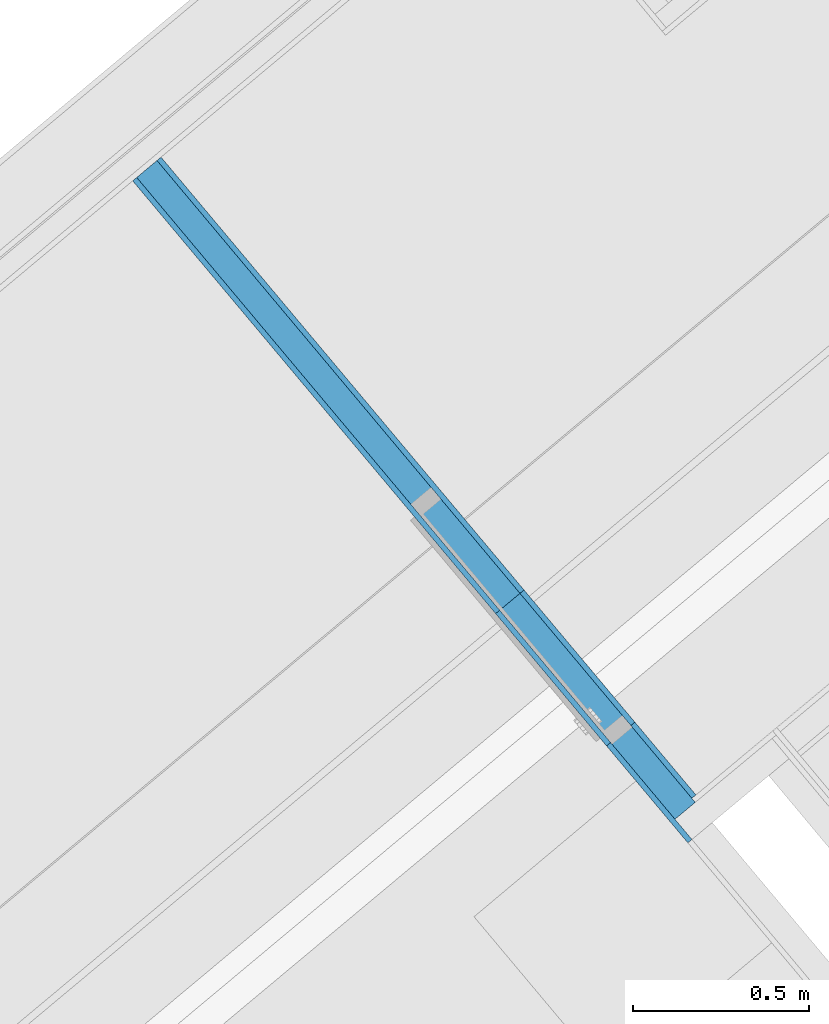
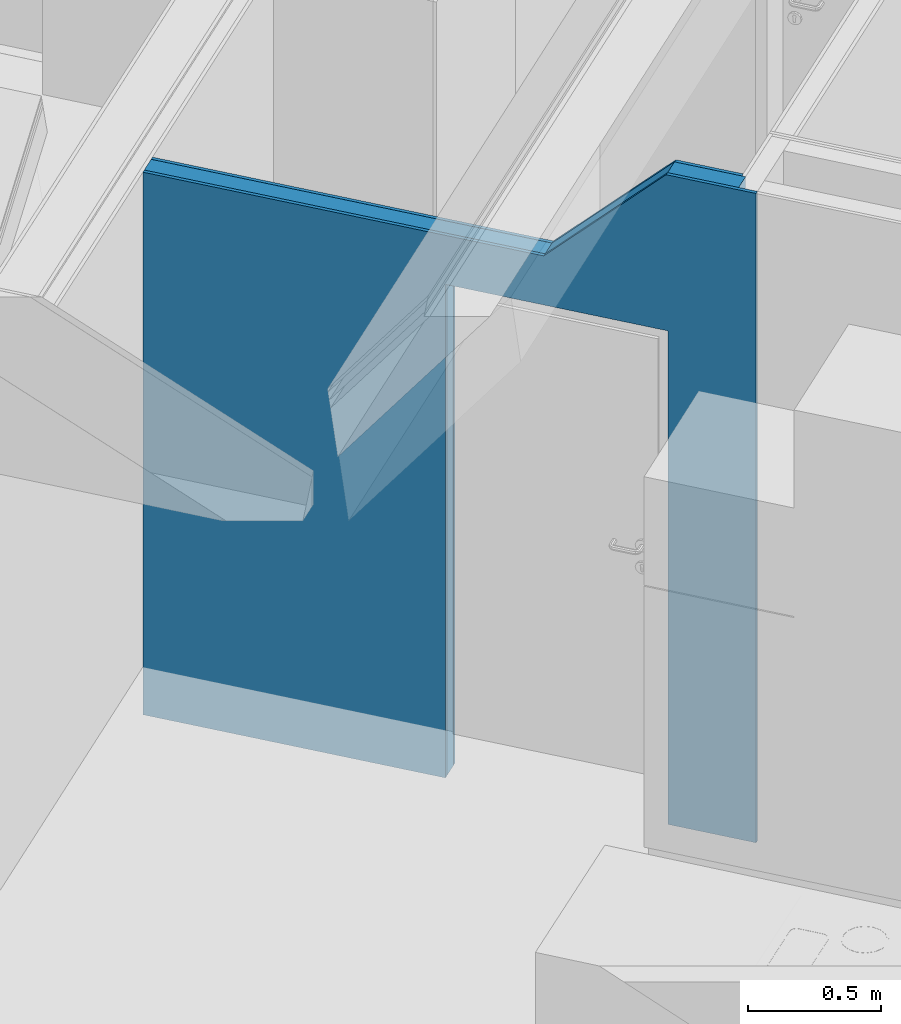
# One storey, part 8 of 47: 3 building element parts, 1 opening, 1 element without a shape of its own.
"""IFC4 building model written with IfcOpenShell, lengths in metres."""

from ifc_helpers import new_model, entity, si_unit, converted_unit, derived_unit, direction, frame, origin_with_axes, place, context, subcontext, project, spatial, polygons, material, type_object, element, aggregate, save


model = new_model("IFC4")

# Units and contexts
model_context = context("Model", 3, precision=1e-05, world=origin_with_axes(), true_north=direction((0.0, 1.0)))
body_context = subcontext(model_context, "Body", "Model", "MODEL_VIEW")
ifc_project = project(units=[si_unit("LENGTHUNIT", "METRE"), si_unit("AREAUNIT", "SQUARE_METRE"), si_unit("VOLUMEUNIT", "CUBIC_METRE"), converted_unit("PLANEANGLEUNIT", "DEGREE", entity("IfcPlaneAngleMeasure", 0.0174532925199), si_unit("PLANEANGLEUNIT", "RADIAN"), dimensions=[0, 0, 0, 0, 0, 0, 0]), converted_unit("TIMEUNIT", "Year", entity("IfcTimeMeasure", 31556926.0), si_unit("TIMEUNIT", "SECOND"), dimensions=[0, 0, 1, 0, 0, 0, 0]), si_unit("MASSUNIT", "GRAM", prefix="KILO"), si_unit("THERMODYNAMICTEMPERATUREUNIT", "DEGREE_CELSIUS"), si_unit("LUMINOUSINTENSITYUNIT", "LUMEN"), si_unit("ENERGYUNIT", "JOULE", prefix="MEGA"), derived_unit("THERMALCONDUCTANCEUNIT", [(si_unit("POWERUNIT", "WATT"), 1), (si_unit("LENGTHUNIT", "METRE"), -1), (si_unit("THERMODYNAMICTEMPERATUREUNIT", "KELVIN"), -1)]), derived_unit("SPECIFICHEATCAPACITYUNIT", [(si_unit("ENERGYUNIT", "JOULE"), 1), (si_unit("MASSUNIT", "GRAM", prefix="KILO"), -1), (si_unit("THERMODYNAMICTEMPERATUREUNIT", "KELVIN"), -1)]), derived_unit("MASSDENSITYUNIT", [(si_unit("MASSUNIT", "GRAM", prefix="KILO"), 1), (si_unit("VOLUMEUNIT", "CUBIC_METRE"), -1)])], contexts=[model_context])

# Site, building, storey
site_placement = place(None, frame((-0.00153261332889, -0.00661245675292, 0.0), z_axis=(0.0, 0.0, 1.0), x_axis=(1.0, 0.0, 0.0)))
site = spatial("IfcSite", under=ifc_project, at=site_placement, Name="Site", CompositionType="ELEMENT")
building_placement = place(site_placement, origin_with_axes())
building = spatial("IfcBuilding", under=site, at=building_placement, Name="Building", CompositionType="ELEMENT")
storey_placement = place(building_placement, frame((0.0, 0.0, 8.66), z_axis=(0.0, 0.0, 1.0), x_axis=(1.0, 0.0, 0.0)))
storey = spatial("IfcBuildingStorey", under=building, at=storey_placement, Name="DG2", CompositionType="ELEMENT", Elevation=8.66)

# Wall, opening, building element parts
wall_type = type_object("IfcWallType", Name="IW LB 01 Leichtbautrennwand einfach 10,5 cm 105", PredefinedType="NOTDEFINED")
wall_placement = place(storey_placement, frame((0.98356534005, 19.6433934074, 0.0), z_axis=(0.0, 0.0, 1.0), x_axis=(-0.642599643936, 0.766202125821, 0.0)))
wall = element("IfcWall", 1, at=wall_placement, inside=storey, type_object=wall_type, Name="Wand-013", PredefinedType="NOTDEFINED")
opening_placement = place(wall_placement, frame((0.797527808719, 0.0, 0.22), z_axis=(0.0, 0.0, 1.0), x_axis=(1.0, 0.0, 0.0)))
element("IfcOpeningElement", 2, at=opening_placement, cuts=wall, Name="Tür-021", context=body_context, identifier="Reference", shape_type="Tessellation", body=[
    polygons([(-0.445, -1.35817263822, 2.045), (-0.445, -1.35817263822, -0.22), (0.445, -1.35817263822, -0.22), (0.445, -1.35817263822, 2.045), (-0.445, 1.25317263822, 2.045), (-0.445, 1.25317263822, -0.22), (0.445, 1.25317263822, -0.22), (0.445, 1.25317263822, 2.045)], [[[1, 2, 3, 4]], [[5, 6, 2, 1]], [[6, 7, 3, 2]], [[7, 8, 4, 3]], [[8, 5, 1, 4]], [[7, 6, 5, 8]]], closed=True),
])
ifc_material_1 = material(Name="Gipskarton")
building_element_part_1_placement = place(wall_placement, origin_with_axes())
building_element_part_1 = element("IfcBuildingElementPart", 3, at=building_element_part_1_placement, material=ifc_material_1, Name="Gipskarton", PredefinedType="NOTDEFINED", context=body_context, shape_type="Tessellation", body=[
    polygons([(1.24252780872, -0.0150000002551, 2.265), (1.24252780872, -0.0150000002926, 0.22), (1.24252779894, -0.015, 0.0), (2.45317669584, -0.015, 0.0), (2.45317669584, -0.0150000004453, 2.49), (0.849317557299, -0.0150000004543, 2.49), (0.359316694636, -0.0150000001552, 2.98), (-6.3169709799e-05, -0.0150000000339, 2.98), (-6.31697096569e-05, -0.015, 0.0), (0.352527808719, -0.015, 0.0), (0.352527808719, -0.0150000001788, 0.22), (0.352527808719, -0.0150000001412, 2.265), (1.24252780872, -9.23724030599e-09, 2.265), (1.24252780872, 2.35633557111e-08, 0.22), (1.2425277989, 2.35633574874e-08, 0.0), (2.45320484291, -3.71182196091e-10, 0.0), (2.45320484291, -8.22589996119e-10, 2.49), (0.849345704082, -9.15925113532e-09, 2.49), (0.359344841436, -1.81039183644e-10, 2.98), (0.0, 0.0, 2.98), (0.0, 0.0, 0.0), (0.352527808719, -8.75775718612e-09, 0.0), (0.352527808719, -8.75775896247e-09, 0.22), (0.352527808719, -9.00279495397e-09, 2.265)], [[[1, 2, 3, 4, 5, 6, 7, 8, 9, 10, 11, 12]], [[2, 1, 13, 14]], [[2, 14, 15, 3]], [[4, 3, 15, 16]], [[5, 4, 16, 17]], [[6, 5, 17, 18]], [[18, 19, 7, 6]], [[20, 8, 7, 19]], [[8, 20, 21, 9]], [[21, 22, 10, 9]], [[23, 11, 10, 22]], [[12, 11, 23, 24]], [[1, 12, 24, 13]], [[24, 23, 22, 21, 20, 19, 18, 17, 16, 15, 14, 13]]], closed=True),
])
ifc_material_2 = material(Name="Mineralwolle weich")
building_element_part_2_placement = place(wall_placement, origin_with_axes())
building_element_part_2 = element("IfcBuildingElementPart", 4, at=building_element_part_2_placement, material=ifc_material_2, Name="Mineralwolle weich", PredefinedType="NOTDEFINED", context=body_context, shape_type="Tessellation", body=[
    polygons([(1.24252780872, -0.0900000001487, 2.265), (1.24252780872, -0.0900000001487, 0.22), (1.24252779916, -0.09, 0.0), (2.45303596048, -0.09, 0.0), (2.45303596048, -0.0900000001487, 2.49), (0.849176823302, -0.09, 2.49), (0.359175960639, -0.0900000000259, 2.98), (0.0746216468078, -0.0900000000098, 2.98), (0.0746216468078, -0.09, 0.0), (0.352527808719, -0.09, 0.0), (0.352527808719, -0.0900000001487, 0.22), (0.352527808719, -0.0900000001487, 2.265), (1.24252780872, -0.0150000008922, 2.265), (1.24252780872, -0.0150000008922, 0.22), (1.24252779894, -0.015, 0.0), (2.45317669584, -0.015, 0.0), (2.45317669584, -0.0150000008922, 2.49), (0.849317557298, -0.0150000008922, 2.49), (0.359316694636, -0.0150000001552, 2.98), (0.0749374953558, -0.0150000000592, 2.98), (0.0749374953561, -0.015, 0.0), (0.352527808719, -0.015, 0.0), (0.352527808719, -0.0150000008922, 0.22), (0.352527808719, -0.0150000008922, 2.265)], [[[1, 2, 3, 4, 5, 6, 7, 8, 9, 10, 11, 12]], [[2, 1, 13, 14]], [[2, 14, 15, 3]], [[4, 3, 15, 16]], [[5, 4, 16, 17]], [[6, 5, 17, 18]], [[18, 19, 7, 6]], [[20, 8, 7, 19]], [[20, 21, 9, 8]], [[21, 22, 10, 9]], [[23, 11, 10, 22]], [[12, 11, 23, 24]], [[1, 12, 24, 13]], [[24, 23, 22, 21, 20, 19, 18, 17, 16, 15, 14, 13]]], closed=True),
])
building_element_part_3_placement = place(wall_placement, origin_with_axes())
building_element_part_3 = element("IfcBuildingElementPart", 5, at=building_element_part_3_placement, material=ifc_material_1, Name="Gipskarton", PredefinedType="NOTDEFINED", context=body_context, shape_type="Tessellation", body=[
    polygons([(1.24252780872, -0.105, 2.265), (1.24252780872, -0.105, 0.22), (1.2425277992, -0.105, 0.0), (2.4530078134, -0.105, 0.0), (2.4530078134, -0.105, 2.49), (0.849148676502, -0.105, 2.49), (0.359147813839, -0.105, 2.98), (0.0895586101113, -0.105, 2.98), (0.0895586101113, -0.105, 0.0), (0.352527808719, -0.105, 0.0), (0.352527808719, -0.105, 0.22), (0.352527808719, -0.105, 2.265), (1.24252780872, -0.0900000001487, 2.265), (1.24252780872, -0.0900000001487, 0.22), (1.24252779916, -0.09, 0.0), (2.45303596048, -0.09, 0.0), (2.45303596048, -0.0900000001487, 2.49), (0.849176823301, -0.0900000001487, 2.49), (0.359175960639, -0.0900000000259, 2.98), (0.0896217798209, -0.0900000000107, 2.98), (0.089621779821, -0.09, 0.0), (0.352527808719, -0.09, 0.0), (0.352527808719, -0.0900000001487, 0.22), (0.352527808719, -0.0900000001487, 2.265)], [[[1, 2, 3, 4, 5, 6, 7, 8, 9, 10, 11, 12]], [[2, 1, 13, 14]], [[2, 14, 15, 3]], [[4, 3, 15, 16]], [[5, 4, 16, 17]], [[6, 5, 17, 18]], [[18, 19, 7, 6]], [[20, 8, 7, 19]], [[20, 21, 9, 8]], [[21, 22, 10, 9]], [[23, 11, 10, 22]], [[12, 11, 23, 24]], [[1, 12, 24, 13]], [[24, 23, 22, 21, 20, 19, 18, 17, 16, 15, 14, 13]]], closed=True),
])
aggregate(wall, [building_element_part_1, building_element_part_2, building_element_part_3])

save(model, "model.ifc")
